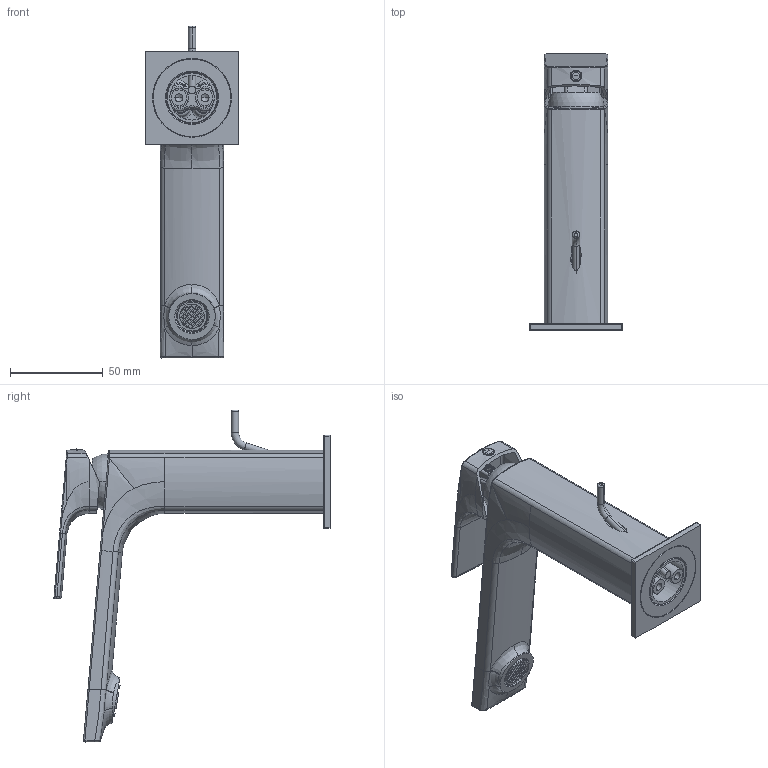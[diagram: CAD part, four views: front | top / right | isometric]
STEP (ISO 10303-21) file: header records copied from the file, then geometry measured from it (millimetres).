
FILE_DESCRIPTION((''),'2;1');
FILE_NAME('75054_SW0001','2024-10-07T08:56:35',('volponeff'),(''),'CREO PARAMETRIC BY PTC INC, 2022014','CREO PARAMETRIC BY PTC INC, 2022014','');
FILE_SCHEMA(('CONFIG_CONTROL_DESIGN'));
Length unit declared in the file: millimetre
Products named in the file (1): 75054_SW0001
Bounding box: 50 x 148.59 x 178.64 mm (x, y, z)
Volume: 120075.2 mm3; surface area: 81217.4 mm2
Topology: 2 solids, 2 shells, 1493 faces, 3829 edges, 2290 vertices
Faces by surface type: cylinder 488, plane 443, bspline 251, torus 133, sphere 94, cone 84
Entity records: 71076 total; most frequent: CARTESIAN_POINT 36907, ORIENTED_EDGE 7512, DIRECTION 6675, EDGE_CURVE 3756, AXIS2_PLACEMENT_3D 2634, VERTEX_POINT 2290, EDGE_LOOP 1648, FACE_OUTER_BOUND 1493
